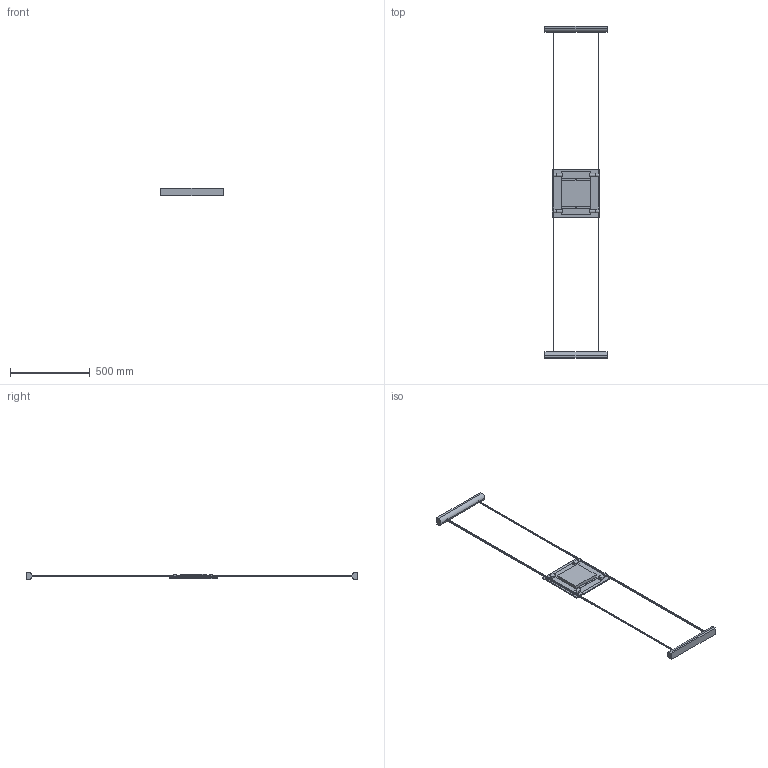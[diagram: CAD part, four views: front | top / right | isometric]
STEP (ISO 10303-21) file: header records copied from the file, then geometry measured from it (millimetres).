
FILE_DESCRIPTION((''),'2;1');
FILE_NAME('PRT0021','2025-05-20T11:02:13',('elena.baldelli'),(''),'CREO PARAMETRIC BY PTC INC, 2020354','CREO PARAMETRIC BY PTC INC, 2020354','');
FILE_SCHEMA(('CONFIG_CONTROL_DESIGN'));
Length unit declared in the file: millimetre
Products named in the file (1): PRT0021
Bounding box: 388 x 2076 x 48 mm (x, y, z)
Surface area: 456093.7 mm2 (no closed solid volume)
Topology: 0 solids, 23 shells, 108 faces, 600 edges, 504 vertices
Faces by surface type: plane 76, cylinder 32
Entity records: 9973 total; most frequent: CARTESIAN_POINT 5607, ORIENTED_EDGE 808, DIRECTION 764, EDGE_CURVE 600, VERTEX_POINT 504, VECTOR 316, LINE 316, AXIS2_PLACEMENT_3D 224
